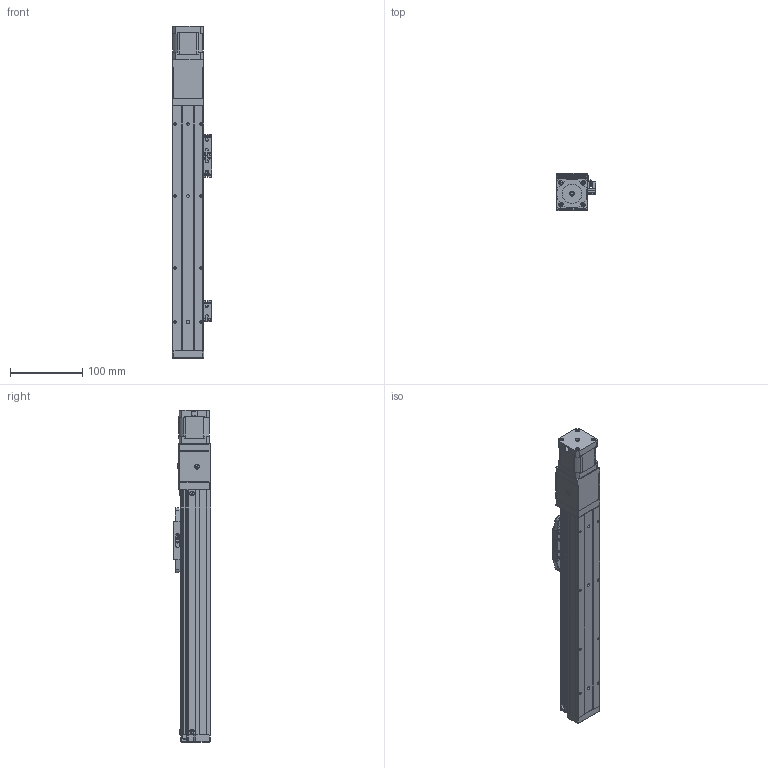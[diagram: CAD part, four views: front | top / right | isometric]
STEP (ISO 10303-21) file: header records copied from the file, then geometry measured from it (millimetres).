
FILE_DESCRIPTION (( 'STEP AP203' ), '1' );
FILE_NAME ('GTH4-200-BC-B42-C4.step', '2023-02-14T00:14:25', ( '微软用户' ), ( '微软中国' ), 'SwSTEP 2.0', 'SolidWorks 2020', '' );
FILE_SCHEMA (( 'CONFIG_CONTROL_DESIGN' ));
Length unit declared in the file: millimetre
Products named in the file (19): BTH40-004; BTH50-023; BTH40-013; BTH40-001-50_BTH40-001-200; BTH50-024; GBT 70.3-M3℅6; BTH40-003; GBT 70.1-M3℅6; BTH40-017; BTH40-006; GBT96.1-2002 3×0.8; BTH40-005-1; BTH-M3X5X6; BTH40-022; 42CM06; GBT70.1-2000 M3×16; GBT 70.1-M2.5×6; GTH4-200-BC-B42-C4; BTH50-028
Assembly tree (49 placements, depth 2):
  GTH4-200-BC-B42-C4
    BTH40-001-50_BTH40-001-200
    BTH40-003
    BTH40-006
    BTH-M3X5X6  x10
    GBT70.1-2000 M3×16  x4
    BTH50-028  x2
    BTH50-023  x3
    BTH50-024  x3
    GBT 70.1-M3℅6  x6
    GBT96.1-2002 3×0.8  x6
    BTH40-022
    GBT 70.1-M2.5×6  x2
    BTH40-004
    BTH40-013
    GBT 70.3-M3℅6  x4
    BTH40-017
    BTH40-005-1
    42CM06
Bounding box: 55.2 x 52 x 461 mm (x, y, z)
Volume: 717700.3 mm3; surface area: 178150.1 mm2
Topology: 58 solids, 58 shells, 3286 faces, 7670 edges, 4604 vertices
Faces by surface type: cone 1475, plane 1112, cylinder 535, torus 128, bspline 24, sphere 12
Entity records: 75238 total; most frequent: DIRECTION 13409, CARTESIAN_POINT 13157, ORIENTED_EDGE 11802, EDGE_CURVE 5901, AXIS2_PLACEMENT_3D 5083, VERTEX_POINT 3535, LINE 3243, VECTOR 3243
